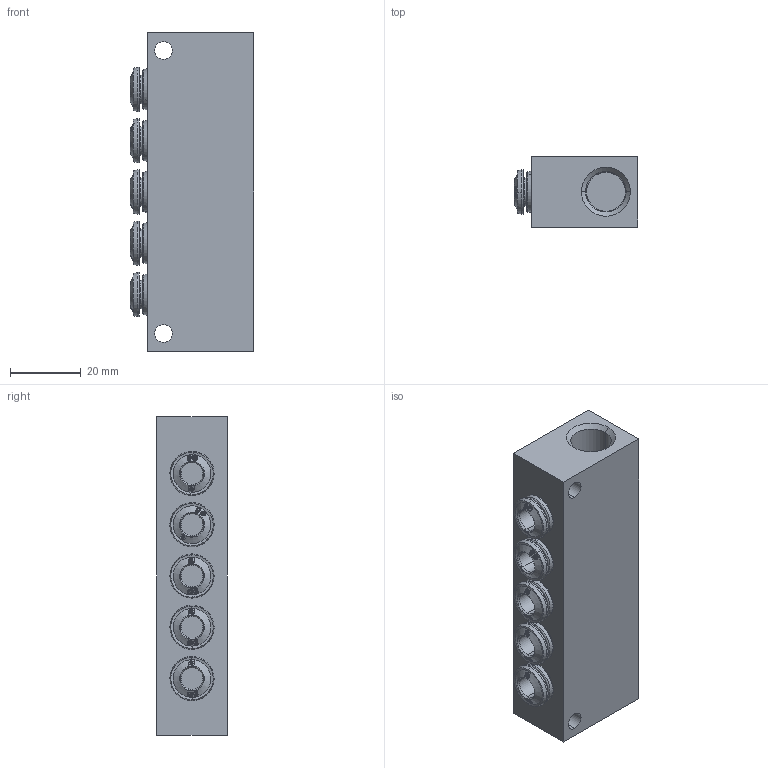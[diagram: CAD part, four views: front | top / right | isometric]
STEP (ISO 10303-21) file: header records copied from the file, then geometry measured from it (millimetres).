
FILE_DESCRIPTION (( 'STEP AP214' ), '1' );
FILE_NAME ('5090000003.step', '2012-10-01T17:00:35', ( '' ), ( '' ), 'SwSTEP 2.0', 'SolidWorks 2012', '' );
FILE_SCHEMA (( 'AUTOMOTIVE_DESIGN' ));
Length unit declared in the file: millimetre
Products named in the file (1): 5090000003
Bounding box: 34.9 x 20 x 90 mm (x, y, z)
Volume: 51323.5 mm3; surface area: 14825.9 mm2
Topology: 1 solids, 11 shells, 553 faces, 1340 edges, 856 vertices
Faces by surface type: bspline 235, cone 133, cylinder 92, plane 53, torus 40
Entity records: 37076 total; most frequent: CARTESIAN_POINT 19930, ORIENTED_EDGE 2680, DIRECTION 1551, EDGE_CURVE 1340, VERTEX_POINT 856, B_SPLINE_CURVE_WITH_KNOTS 775, AXIS2_PLACEMENT_3D 667, EDGE_LOOP 624
